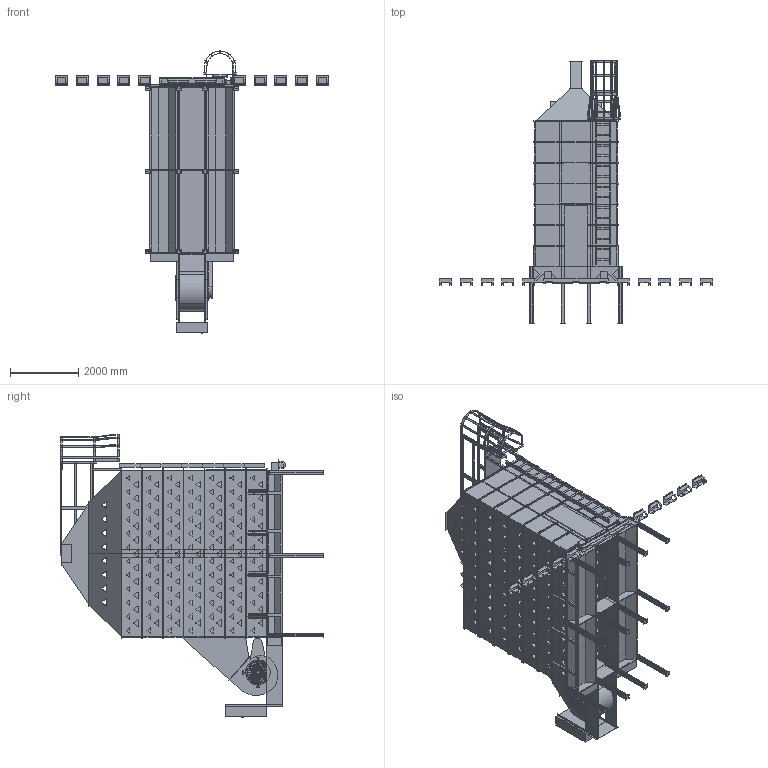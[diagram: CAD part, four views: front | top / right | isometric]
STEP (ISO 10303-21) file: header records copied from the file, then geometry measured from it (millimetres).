
FILE_DESCRIPTION(/* description */ ('PLAN AND ELEVATION VIEW FOR D16106 WITH ROOF & GRAVITY FILL'),/* implementation_level */ '2;1');
FILE_NAME(/* name */ 'C:\Engineering\Designs\Sales\Dryer\Workspaces\D16 All\D1690GF.stp',/* time_stamp */ '2025-01-06T16:43:34-06:00',/* author */ ('max.fleming'),/* organization */ (''),/* preprocessor_version */ 'ST-DEVELOPER v18.1',/* originating_system */ 'Autodesk Inventor 2022',/* authorisation */ '');
FILE_SCHEMA (('AUTOMOTIVE_DESIGN { 1 0 10303 214 3 1 1 }'));
Products named in the file (22): D1690GF; 16FT FRAME; 8FT LHRH FRAME; 16FT Grav Assy; 16FT ROOF GF; 8FTRoof GF LHRH; 16FT BODY TIER; LH Body; RH Body; LH Body_MIR6; RH Body_MIR6; Outside Splice; Trans & Blower 16FT; Standard Size End Plenum Panels; Ladder 2' section; Stiffeners; 6'' CROSS AUGER; Short Tongue; Leg Kit-02; 16FT CATWALK; Belt Shield; Screen Guard 16
Assembly tree (57 placements, depth 3):
  D1690GF
    16FT FRAME
      8FT LHRH FRAME  x2
    16FT Grav Assy
    16FT ROOF GF
      8FTRoof GF LHRH  x2
    16FT BODY TIER  x7
      LH Body
      RH Body
      LH Body_MIR6
      RH Body_MIR6
      Outside Splice
    Leg Kit-02  x12
    Trans & Blower 16FT
    Standard Size End Plenum Panels  x11
    Stiffeners  x8
    Short Tongue
    16FT CATWALK
    Belt Shield
    Screen Guard 16  x2
  Ladder 2' section
  6'' CROSS AUGER
Bounding box: 8007.35 x 7729.94 x 8298.27 mm (x, y, z)
Volume: 39340371353.1 mm3; surface area: 538876071.7 mm2
Topology: 114 solids, 114 shells, 7380 faces, 20335 edges, 13322 vertices
Faces by surface type: plane 5585, cylinder 1767, bspline 26, torus 2
Full cylindrical faces by diameter (mm): 15.875 x48, 38.1 x1, 44.45 x16, 95.25 x2, 127 x2
Entity records: 100432 total; most frequent: CARTESIAN_POINT 17826, ORIENTED_EDGE 17426, DIRECTION 16177, EDGE_CURVE 8713, LINE 7229, VECTOR 7229, VERTEX_POINT 5707, AXIS2_PLACEMENT_3D 4474
